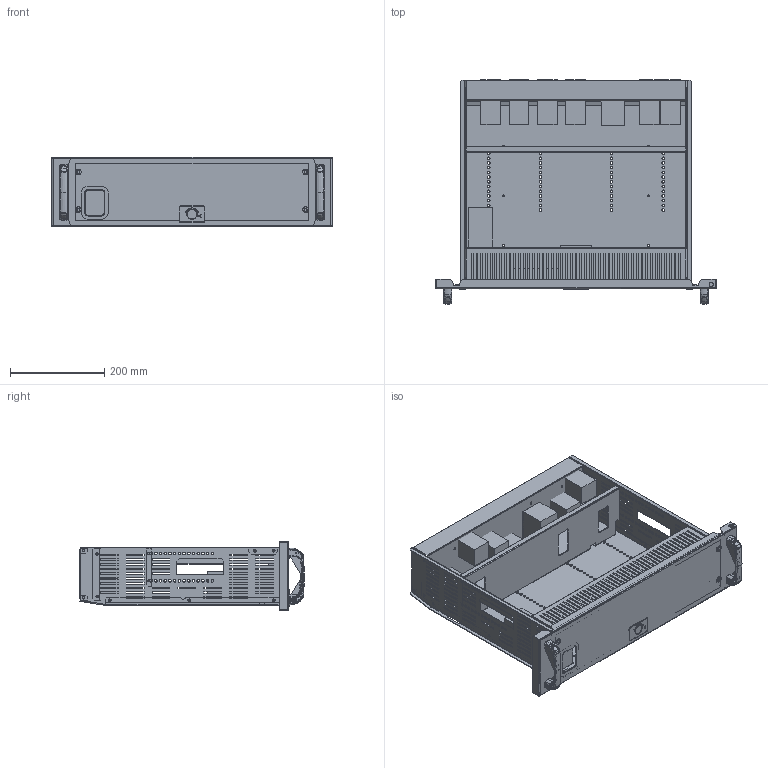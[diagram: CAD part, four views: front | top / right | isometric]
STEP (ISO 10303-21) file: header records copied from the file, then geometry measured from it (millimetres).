
FILE_DESCRIPTION(('CAx-IF Rec.Pracs.---Model Styling and Organization---1.2---2011-12-15','CAx-IF Rec.Pracs.---Geometric and Assembly Validation Properties---4.1---2014-06-16','CAx-IF Rec.Pracs.---PMI Polyline Presentation---2.0---2013-05-24'),'2;1');
FILE_NAME('3М1.stp','2021-05-05T11:46:18+03:00',(''),(''),'STEP Interface 4.4 by CT CoreTechnologie','3D_Evolution4.4 by CT CoreTechnologie','');
FILE_SCHEMA(('AUTOMOTIVE_DESIGN { 1 0 10303 214 1 1 1 1 }'));
Length unit declared in the file: millimetre
Products named in the file (32): 3Ì1; 6-GOST 11371-78 (DIN 125) PA 6.6_6-GOST 11371-78 (DIN 125) PA 6.6; M6x12 (A1100001)_stright; R5M2W3M1BR22_R5MW31BR22; RB.1506.00.00.0_-01; âòû÷íûå; RB.1166.00.00.0 ÑÁ_-00; Ì6õ12-A5100231_straight; PF 3.5x7 RAMmcc 2.0_00; RB.1166.00.01.0_-00; RB.1166.00.02.0_¢ à 1; RB.1166.00.03.0_-00; RB.1166.00.04.0_-00; PF 7x14 RAMmcc 2.0_3å1; AC00C061_AC00C061; Ì5-GOST 5915-70 (DIN 934)_straight; 4.444.001(1); PR.DT477.100.02; PR.DT477.100.01; 4.444.001(2); ñèãíàëüíûå; êíîïêà; RB.1505.00.01.0; ìåõàíèçì; áëîêèðîâêà ìåõàíèçì; RB.1499.00.00.0 ÑÁ_-00; RB.1499.00.01.0_-00; M6 art.MGR-MKO-0625_2¬¬; RB.1501.00.00.0 ÑÁ_-00; RB.1501.00.01.0_-00; RB.1356.00.00.0; RB.1511.00.00.0_-00
Assembly tree (53 placements, depth 3):
  3Ì1
    6-GOST 11371-78 (DIN 125) PA 6.6_6-GOST 11371-78 (DIN 125) PA 6.6  x4
    M6x12 (A1100001)_stright  x4
    R5M2W3M1BR22_R5MW31BR22
      RB.1506.00.00.0_-01
    âòû÷íûå  x7
    RB.1166.00.00.0 ÑÁ_-00
      Ì6õ12-A5100231_straight
      PF 3.5x7 RAMmcc 2.0_00
      RB.1166.00.01.0_-00
      RB.1166.00.02.0_¢ à 1
      RB.1166.00.03.0_-00
      RB.1166.00.04.0_-00
      PF 7x14 RAMmcc 2.0_3å1
      AC00C061_AC00C061
    Ì5-GOST 5915-70 (DIN 934)_straight  x4
    4.444.001(1)
      PR.DT477.100.02  x2
      PR.DT477.100.01
    4.444.001(2)
      PR.DT477.100.02  x2
      PR.DT477.100.01
    ñèãíàëüíûå
    êíîïêà
    RB.1505.00.01.0
    ìåõàíèçì
    áëîêèðîâêà ìåõàíèçì
    RB.1499.00.00.0 ÑÁ_-00
      RB.1499.00.01.0_-00
      M6 art.MGR-MKO-0625_2¬¬  x2
    RB.1501.00.00.0 ÑÁ_-00
      RB.1501.00.01.0_-00
      M6 art.MGR-MKO-0625_2¬¬  x2
    RB.1356.00.00.0
    RB.1511.00.00.0_-00
Bounding box: 594 x 476.44 x 147 mm (x, y, z)
Surface area: 1589270 mm2 (no closed solid volume)
Topology: 0 solids, 55 shells, 4050 faces, 10502 edges, 6508 vertices
Faces by surface type: plane 1683, bspline 1522, cylinder 845
Entity records: 131594 total; most frequent: CARTESIAN_POINT 38858, ORIENTED_EDGE 14710, DIRECTION 13756, EDGE_CURVE 7355, VERTEX_POINT 4684, AXIS2_PLACEMENT_3D 4600, VECTOR 4556, LINE 4556
